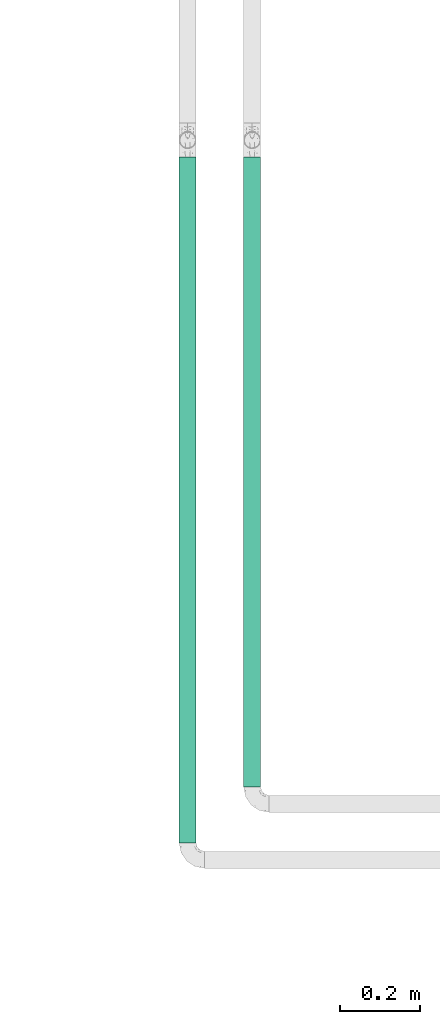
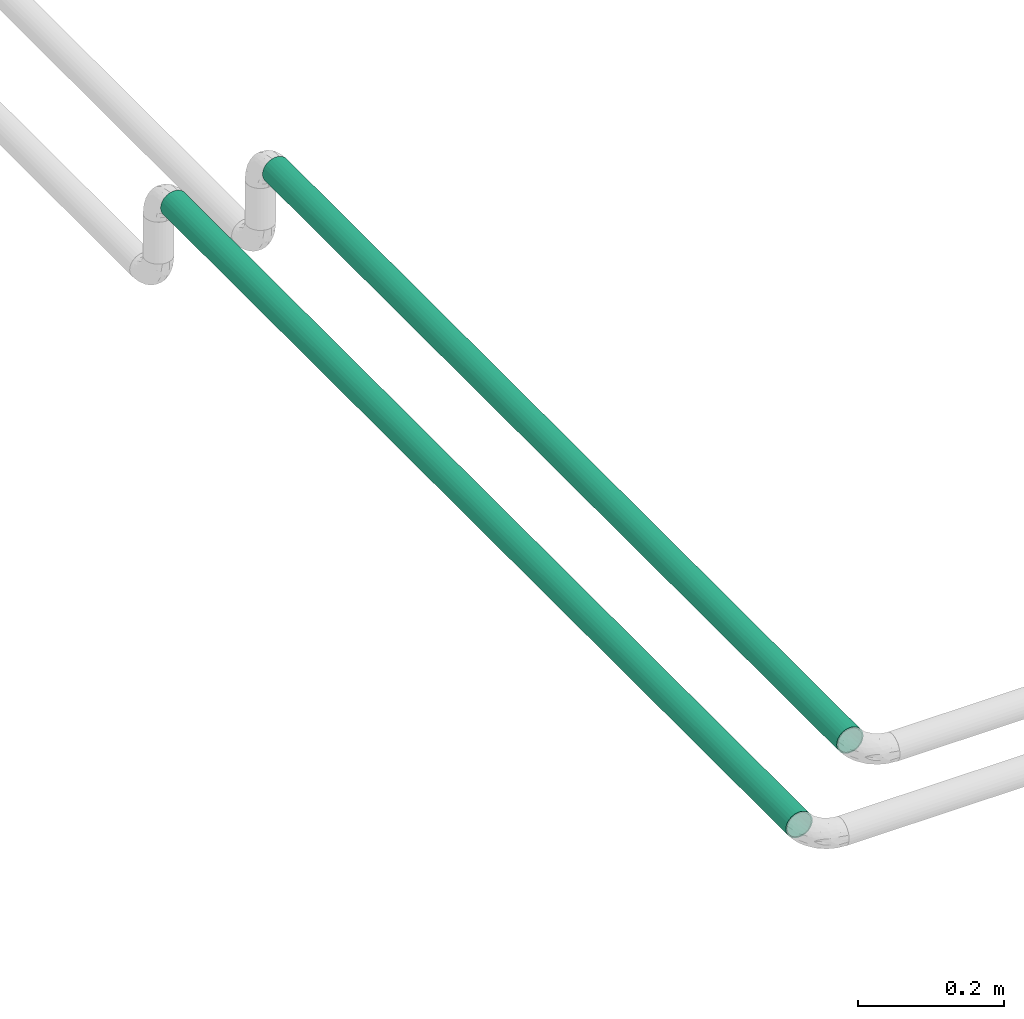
# One storey, part 21 of 108: 2 flow segments.
"""IFC2X3 building model written with IfcOpenShell, lengths in millimetres."""

from ifc_helpers import new_model, entity, si_unit, converted_unit, derived_unit, direction, frame, origin_with_axes, origin_2d_with_axis, place, context, subcontext, project, spatial, hollow_circle, extrude, source, transform, mapped, type_object, element, save


model = new_model("IFC2X3")

# Units and contexts
model_context = context("Model", 3, precision=0.01, world=frame((0.0, 4.29681676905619e-09, 0.0)), true_north=direction((4.01073788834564e-13, 1.0)))
plan_context = context("Plan", 3, precision=0.01, world=frame((0.0, 4.29681676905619e-09, 0.0)), true_north=direction((4.01073788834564e-13, 1.0)))
body_context = subcontext(model_context, "Body", "Model", "MODEL_VIEW")
ifc_project = project(units=[converted_unit("PLANEANGLEUNIT", "DEGREE", entity("IfcPositiveLengthMeasure", 0.0174532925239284), si_unit("PLANEANGLEUNIT", "RADIAN"), dimensions=[0, 0, 0, 0, 0, 0, 0]), si_unit("AREAUNIT", "SQUARE_METRE"), si_unit("LENGTHUNIT", "METRE", prefix="MILLI"), si_unit("MASSUNIT", "GRAM", prefix="KILO"), si_unit("POWERUNIT", "WATT"), si_unit("PRESSUREUNIT", "PASCAL", prefix="KILO"), si_unit("FORCEUNIT", "NEWTON", prefix="KILO"), si_unit("ELECTRICVOLTAGEUNIT", "VOLT"), si_unit("ELECTRICCURRENTUNIT", "AMPERE"), si_unit("THERMODYNAMICTEMPERATUREUNIT", "DEGREE_CELSIUS"), si_unit("TIMEUNIT", "SECOND"), si_unit("VOLUMEUNIT", "CUBIC_METRE"), derived_unit("LINEARVELOCITYUNIT", [(si_unit("LENGTHUNIT", "METRE"), 1), (si_unit("TIMEUNIT", "SECOND"), -1)]), derived_unit("VOLUMETRICFLOWRATEUNIT", [(si_unit("VOLUMEUNIT", "CUBIC_METRE"), 1), (si_unit("TIMEUNIT", "SECOND"), -1)]), derived_unit("THERMALTRANSMITTANCEUNIT", [(si_unit("POWERUNIT", "WATT"), 1), (si_unit("THERMODYNAMICTEMPERATUREUNIT", "KELVIN"), -1), (si_unit("AREAUNIT", "SQUARE_METRE"), -1)]), derived_unit("SOUNDPRESSUREUNIT", [(si_unit("PRESSUREUNIT", "PASCAL"), 1)])], contexts=[model_context, plan_context])

# Site, building, storey
site_placement = place(None, frame((0.0, -4.29681676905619e-09, 0.0), z_axis=(0.0, 0.0, 1.0), x_axis=(1.0, 0.0, 0.0)))
site = spatial("IfcSite", under=ifc_project, at=site_placement, CompositionType="ELEMENT")
building_placement = place(site_placement, frame((0.0, 4.29681676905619e-09, 0.0), z_axis=(0.0, 0.0, 1.0), x_axis=(1.0, 0.0, 0.0)))
building = spatial("IfcBuilding", under=site, at=building_placement, Name="mc-building", CompositionType="ELEMENT")
storey_placement = place(building_placement, frame((0.0, 0.0, 210200.0), z_axis=(0.0, 0.0, 1.0), x_axis=(1.0, 0.0, 0.0)))
storey = spatial("IfcBuildingStorey", under=building, at=storey_placement, Name="Nivå F - 0,7 m", CompositionType="ELEMENT", Elevation=210200.0)

# Flow segments
pipe_segment_type = type_object("IfcPipeSegmentType", Name="Stålrør normaltykke", PredefinedType="RIGIDSEGMENT")
shared_shape_1 = source(origin_with_axes(), body_context, "Body", "SweptSolid", [
    extrude(hollow_circle(Radius=21.2, WallThickness=2.0, at=origin_2d_with_axis()), frame((0.0, 0.0, 0.0), z_axis=(1.0, 0.0, 0.0), x_axis=(0.0, 1.0, 0.0)), (0.0, 0.0, 1.0), 1575.2),
])
flow_segment_1_placement = place(storey_placement, frame((324610.22236, 460436.52277, 3038.28479999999), z_axis=(0.0, 0.0, 1.0), x_axis=(0.0, 1.0, 0.0)))
element("IfcFlowSegment", 1, at=flow_segment_1_placement, inside=storey, type_object=pipe_segment_type, Name="Stålrør normaltykke", context=body_context, shape_type="MappedRepresentation", body=[
    mapped(shared_shape_1, transform((0.0, 0.0, 0.0), scale=1.0)),
])
shared_shape_2 = source(origin_with_axes(), body_context, "Body", "SweptSolid", [
    extrude(hollow_circle(Radius=21.2, WallThickness=2.0, at=origin_2d_with_axis()), frame((0.0, 0.0, 0.0), z_axis=(1.0, 0.0, 0.0), x_axis=(0.0, 1.0, 0.0)), (0.0, 0.0, 1.0), 1715.2),
])
flow_segment_2_placement = place(storey_placement, frame((324448.8625, 460296.52277, 3038.28479999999), z_axis=(0.0, 0.0, 1.0), x_axis=(0.0, 1.0, 0.0)))
element("IfcFlowSegment", 2, at=flow_segment_2_placement, inside=storey, type_object=pipe_segment_type, Name="Stålrør normaltykke", context=body_context, shape_type="MappedRepresentation", body=[
    mapped(shared_shape_2, transform((0.0, 0.0, 0.0), scale=1.0)),
])

save(model, "model.ifc")
